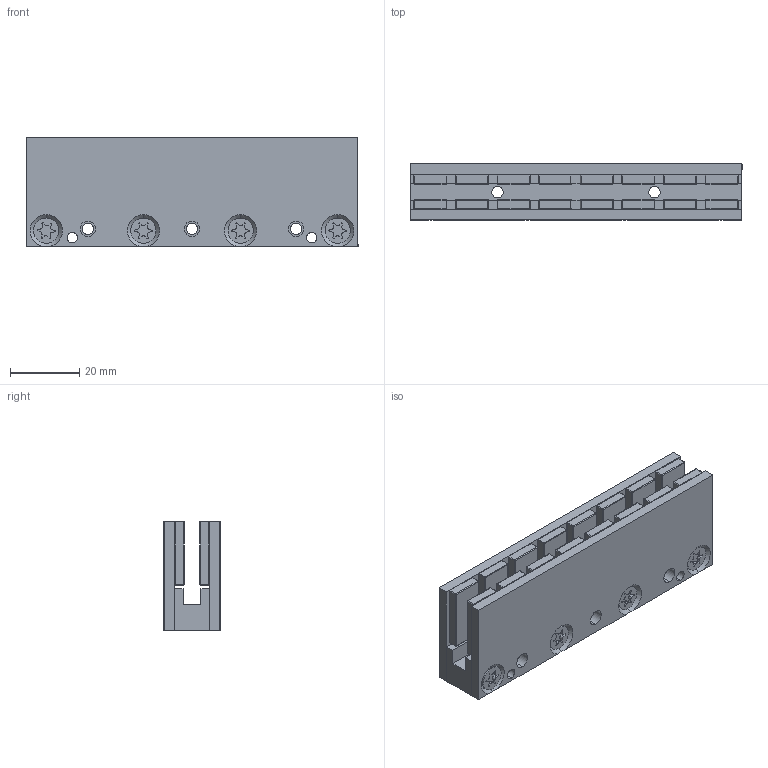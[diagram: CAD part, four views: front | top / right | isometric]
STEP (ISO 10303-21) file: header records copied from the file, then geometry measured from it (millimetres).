
FILE_DESCRIPTION (( 'STEP AP203' ), '1' );
FILE_NAME ('MY32-96 3D.STEP', '2020-10-26T12:31:27', ( '' ), ( '' ), 'SwSTEP 2.0', 'SolidWorks 2018', '' );
FILE_SCHEMA (( 'CONFIG_CONTROL_DESIGN' ));
Length unit declared in the file: millimetre
Products named in the file (6): CS32-96; CP32-96; MY32-96 3D; MP32-96; IL34 magnet; MY44 screw
Assembly tree (41 placements, depth 3):
  MY32-96 3D
    CP32-96
    IL34 magnet  x21
    MY44 screw  x8
    CS32-96
    MP32-96
      CP32-96
      IL34 magnet  x8
Bounding box: 95.7 x 16.15 x 31.7 mm (x, y, z)
Volume: 40524.8 mm3; surface area: 35756.3 mm2
Topology: 40 solids, 40 shells, 1150 faces, 2690 edges, 1388 vertices
Faces by surface type: cylinder 558, plane 320, sphere 232, cone 40
Entity records: 5921 total; most frequent: DIRECTION 841, CARTESIAN_POINT 762, ORIENTED_EDGE 682, EDGE_CURVE 341, AXIS2_PLACEMENT_3D 331, VERTEX_POINT 214, VECTOR 179, LINE 179
